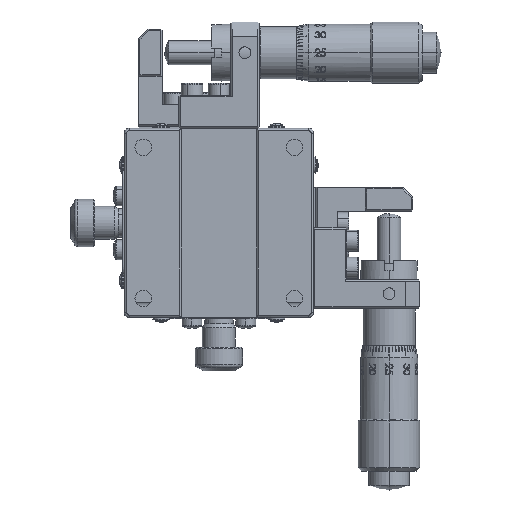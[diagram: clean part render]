
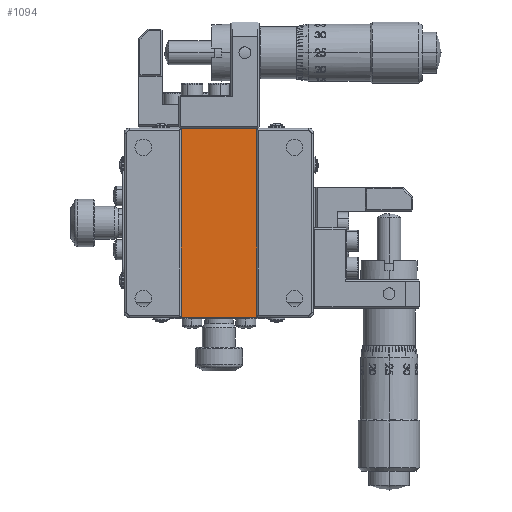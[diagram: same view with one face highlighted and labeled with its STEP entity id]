
A CAD part, front view. The second image highlights one B-rep face of the part: STEP entity #1094.
In plain terms, the highlighted planar face has unit normal (0, -1, 0).
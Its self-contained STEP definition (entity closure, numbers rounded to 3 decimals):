
#1094 = ADVANCED_FACE ( 'NONE', ( #85024 ), #23767, .F. ) ;
#2327 = CARTESIAN_POINT ( 'NONE',  ( -8., 0.3, -19.958 ) ) ;
#6508 = VECTOR ( 'NONE', #120700, 1000. ) ;
#7088 = ORIENTED_EDGE ( 'NONE', *, *, #94097, .T. ) ;
#8541 = LINE ( 'NONE', #2327, #113577 ) ;
#11245 = DIRECTION ( 'NONE',  ( 0., 0., 1. ) ) ;
#11313 = CARTESIAN_POINT ( 'NONE',  ( -8., 0.3, 19.958 ) ) ;
#12858 = DIRECTION ( 'NONE',  ( 1., 0., 0. ) ) ;
#23767 = PLANE ( 'NONE',  #113937 ) ;
#24583 = ORIENTED_EDGE ( 'NONE', *, *, #55072, .T. ) ;
#25632 = VERTEX_POINT ( 'NONE', #34399 ) ;
#27674 = VECTOR ( 'NONE', #108361, 1000. ) ;
#29665 = VERTEX_POINT ( 'NONE', #11313 ) ;
#34399 = CARTESIAN_POINT ( 'NONE',  ( 8., 0.3, -19.958 ) ) ;
#34953 = CARTESIAN_POINT ( 'NONE',  ( 8., 0.3, 19.958 ) ) ;
#34989 = CARTESIAN_POINT ( 'NONE',  ( -8., 0.3, -20. ) ) ;
#38441 = VERTEX_POINT ( 'NONE', #83440 ) ;
#41349 = EDGE_CURVE ( 'NONE', #80792, #29665, #118129, .T. ) ;
#44574 = DIRECTION ( 'NONE',  ( 0., 0., 1. ) ) ;
#55072 = EDGE_CURVE ( 'NONE', #38441, #25632, #8541, .T. ) ;
#63542 = CARTESIAN_POINT ( 'NONE',  ( -8., 0.3, -20. ) ) ;
#74106 = DIRECTION ( 'NONE',  ( 0., 1., 0. ) ) ;
#80220 = LINE ( 'NONE', #34989, #27674 ) ;
#80677 = EDGE_LOOP ( 'NONE', ( #111644, #24583, #7088, #109419 ) ) ;
#80792 = VERTEX_POINT ( 'NONE', #34953 ) ;
#81303 = CARTESIAN_POINT ( 'NONE',  ( 8., 0.3, 19.958 ) ) ;
#83440 = CARTESIAN_POINT ( 'NONE',  ( -8., 0.3, -19.958 ) ) ;
#85024 = FACE_OUTER_BOUND ( 'NONE', #80677, .T. ) ;
#94097 = EDGE_CURVE ( 'NONE', #25632, #80792, #102271, .T. ) ;
#102271 = LINE ( 'NONE', #117940, #126932 ) ;
#108361 = DIRECTION ( 'NONE',  ( 0., 0., 1. ) ) ;
#109419 = ORIENTED_EDGE ( 'NONE', *, *, #41349, .T. ) ;
#111644 = ORIENTED_EDGE ( 'NONE', *, *, #135476, .F. ) ;
#113577 = VECTOR ( 'NONE', #12858, 1000. ) ;
#113937 = AXIS2_PLACEMENT_3D ( 'NONE', #63542, #74106, #11245 ) ;
#117940 = CARTESIAN_POINT ( 'NONE',  ( 8., 0.3, -20. ) ) ;
#118129 = LINE ( 'NONE', #81303, #6508 ) ;
#120700 = DIRECTION ( 'NONE',  ( -1., 0., 0. ) ) ;
#126932 = VECTOR ( 'NONE', #44574, 1000. ) ;
#135476 = EDGE_CURVE ( 'NONE', #38441, #29665, #80220, .T. ) ;
